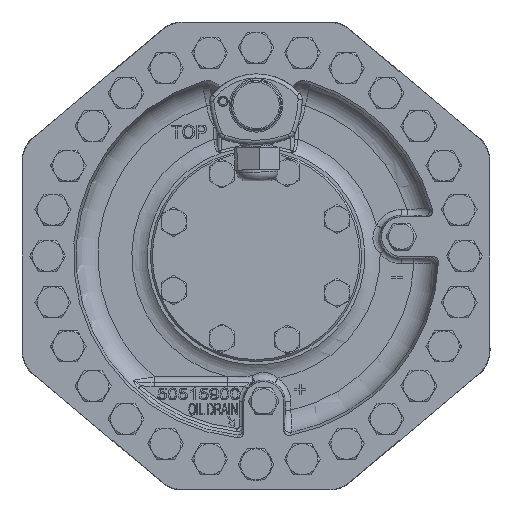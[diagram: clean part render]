
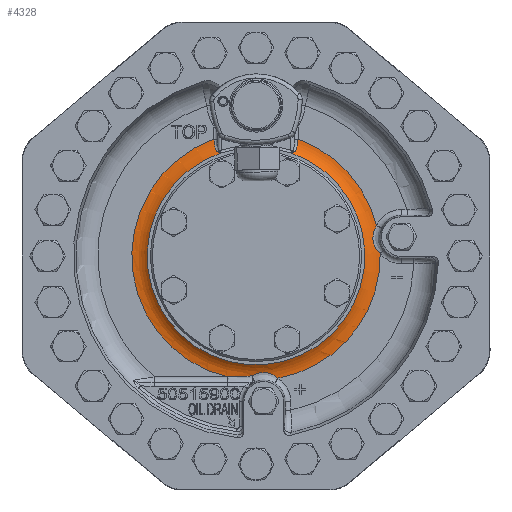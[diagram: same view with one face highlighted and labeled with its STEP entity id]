
A CAD part, front view. The second image highlights one B-rep face of the part: STEP entity #4328.
In plain terms, the highlighted toroidal (fillet/blend) face has major radius 64.087 mm and minor radius 12 mm.
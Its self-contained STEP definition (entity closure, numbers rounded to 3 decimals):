
#2057=TOROIDAL_SURFACE('',#20884,64.087,12.);
#2098=FACE_OUTER_BOUND('',#7110,.T.);
#3182=B_SPLINE_CURVE_WITH_KNOTS('',3,(#27173,#27174,#27175,#27176),
 .UNSPECIFIED.,.F.,.F.,(4,4),(0.,1.),.UNSPECIFIED.);
#3183=B_SPLINE_CURVE_WITH_KNOTS('',3,(#27178,#27179,#27180,#27181,#27182,
#27183,#27184,#27185),.UNSPECIFIED.,.F.,.F.,(4,2,2,4),(0.,0.25,0.5,1.),
 .UNSPECIFIED.);
#3184=B_SPLINE_CURVE_WITH_KNOTS('',3,(#27189,#27190,#27191,#27192,#27193,
#27194,#27195),.UNSPECIFIED.,.F.,.F.,(4,3,4),(0.,0.645,1.),
 .UNSPECIFIED.);
#3185=B_SPLINE_CURVE_WITH_KNOTS('',3,(#27197,#27198,#27199,#27200,#27201,
#27202,#27203,#27204),.UNSPECIFIED.,.F.,.F.,(4,2,2,4),(0.,0.25,0.5,1.),
 .UNSPECIFIED.);
#3186=B_SPLINE_CURVE_WITH_KNOTS('',3,(#27208,#27209,#27210,#27211,#27212,
#27213,#27214,#27215,#27216,#27217),.UNSPECIFIED.,.F.,.F.,(4,2,2,2,4),(0.,
0.25,0.5,0.75,1.),.UNSPECIFIED.);
#3187=B_SPLINE_CURVE_WITH_KNOTS('',3,(#27221,#27222,#27223,#27224,#27225,
#27226,#27227,#27228),.UNSPECIFIED.,.F.,.F.,(4,2,2,4),(0.,0.5,
0.75,1.),.UNSPECIFIED.);
#3188=B_SPLINE_CURVE_WITH_KNOTS('',3,(#27230,#27231,#27232,#27233),
 .UNSPECIFIED.,.F.,.F.,(4,4),(0.,1.),.UNSPECIFIED.);
#4328=ADVANCED_FACE('',(#2098),#2057,.F.);
#6085=CIRCLE('',#20876,56.15);
#6089=CIRCLE('',#20881,64.087);
#6090=CIRCLE('',#20882,64.087);
#6091=CIRCLE('',#20883,64.087);
#7110=EDGE_LOOP('',(#10576,#10577,#10578,#10579,#10580,#10581,#10582,#10583,
#10584,#10585,#10586));
#10576=ORIENTED_EDGE('',*,*,#18043,.F.);
#10577=ORIENTED_EDGE('',*,*,#18047,.T.);
#10578=ORIENTED_EDGE('',*,*,#18048,.T.);
#10579=ORIENTED_EDGE('',*,*,#18049,.F.);
#10580=ORIENTED_EDGE('',*,*,#18050,.T.);
#10581=ORIENTED_EDGE('',*,*,#18051,.T.);
#10582=ORIENTED_EDGE('',*,*,#18052,.F.);
#10583=ORIENTED_EDGE('',*,*,#18053,.T.);
#10584=ORIENTED_EDGE('',*,*,#18054,.F.);
#10585=ORIENTED_EDGE('',*,*,#18055,.T.);
#10586=ORIENTED_EDGE('',*,*,#18056,.T.);
#16234=VERTEX_POINT('',#27165);
#16235=VERTEX_POINT('',#27166);
#16238=VERTEX_POINT('',#27177);
#16239=VERTEX_POINT('',#27186);
#16240=VERTEX_POINT('',#27188);
#16241=VERTEX_POINT('',#27196);
#16242=VERTEX_POINT('',#27205);
#16243=VERTEX_POINT('',#27207);
#16244=VERTEX_POINT('',#27218);
#16245=VERTEX_POINT('',#27220);
#16246=VERTEX_POINT('',#27229);
#18043=EDGE_CURVE('',#16234,#16235,#6085,.T.);
#18047=EDGE_CURVE('',#16234,#16238,#3182,.T.);
#18048=EDGE_CURVE('',#16238,#16239,#3183,.T.);
#18049=EDGE_CURVE('',#16240,#16239,#6089,.T.);
#18050=EDGE_CURVE('',#16240,#16241,#3184,.T.);
#18051=EDGE_CURVE('',#16241,#16242,#3185,.T.);
#18052=EDGE_CURVE('',#16243,#16242,#6090,.T.);
#18053=EDGE_CURVE('',#16243,#16244,#3186,.T.);
#18054=EDGE_CURVE('',#16245,#16244,#6091,.T.);
#18055=EDGE_CURVE('',#16245,#16246,#3187,.T.);
#18056=EDGE_CURVE('',#16246,#16235,#3188,.T.);
#20876=AXIS2_PLACEMENT_3D('',#27164,#22635,#22636);
#20881=AXIS2_PLACEMENT_3D('',#27187,#22645,#22646);
#20882=AXIS2_PLACEMENT_3D('',#27206,#22647,#22648);
#20883=AXIS2_PLACEMENT_3D('',#27219,#22649,#22650);
#20884=AXIS2_PLACEMENT_3D('',#27234,#22651,#22652);
#22635=DIRECTION('',(-1.,0.,0.));
#22636=DIRECTION('',(0.,0.,-1.));
#22645=DIRECTION('',(1.,0.,0.));
#22646=DIRECTION('',(0.,0.,1.));
#22647=DIRECTION('',(1.,0.,0.));
#22648=DIRECTION('',(0.,0.,1.));
#22649=DIRECTION('',(1.,0.,0.));
#22650=DIRECTION('',(0.,0.,1.));
#22651=DIRECTION('',(-1.,0.,0.));
#22652=DIRECTION('',(0.,0.,1.));
#27164=CARTESIAN_POINT('',(-13.,0.,0.));
#27165=CARTESIAN_POINT('',(-13.,18.434,53.038));
#27166=CARTESIAN_POINT('',(-13.,-18.434,53.038));
#27173=CARTESIAN_POINT('',(-13.,18.434,53.038));
#27174=CARTESIAN_POINT('',(-12.841,18.812,53.098));
#27175=CARTESIAN_POINT('',(-12.605,19.216,53.25));
#27176=CARTESIAN_POINT('',(-12.365,19.578,53.462));
#27177=CARTESIAN_POINT('',(-12.365,19.578,53.462));
#27178=CARTESIAN_POINT('',(-12.365,19.578,53.462));
#27179=CARTESIAN_POINT('',(-12.034,20.078,53.753));
#27180=CARTESIAN_POINT('',(-11.676,20.417,54.218));
#27181=CARTESIAN_POINT('',(-11.067,20.931,55.266));
#27182=CARTESIAN_POINT('',(-10.809,21.105,55.852));
#27183=CARTESIAN_POINT('',(-10.197,21.512,57.679));
#27184=CARTESIAN_POINT('',(-10.,21.637,58.982));
#27185=CARTESIAN_POINT('',(-10.,21.708,60.299));
#27186=CARTESIAN_POINT('',(-10.,21.708,60.299));
#27187=CARTESIAN_POINT('',(-10.,0.,0.));
#27188=CARTESIAN_POINT('',(-10.,14.604,-62.401));
#27189=CARTESIAN_POINT('',(-10.,14.604,-62.401));
#27190=CARTESIAN_POINT('',(-10.,11.904,-62.205));
#27191=CARTESIAN_POINT('',(-10.077,9.2,-62.058));
#27192=CARTESIAN_POINT('',(-10.133,6.495,-61.967));
#27193=CARTESIAN_POINT('',(-10.164,5.005,-61.917));
#27194=CARTESIAN_POINT('',(-10.189,3.514,-61.884));
#27195=CARTESIAN_POINT('',(-10.201,2.024,-61.868));
#27196=CARTESIAN_POINT('',(-10.201,2.024,-61.868));
#27197=CARTESIAN_POINT('',(-10.201,2.024,-61.868));
#27198=CARTESIAN_POINT('',(-10.325,1.025,-61.228));
#27199=CARTESIAN_POINT('',(-10.482,-0.086,-60.72));
#27200=CARTESIAN_POINT('',(-10.657,-2.403,-60.124));
#27201=CARTESIAN_POINT('',(-10.667,-3.651,-60.034));
#27202=CARTESIAN_POINT('',(-10.445,-7.215,-60.431));
#27203=CARTESIAN_POINT('',(-10.,-9.432,-61.534));
#27204=CARTESIAN_POINT('',(-10.,-11.298,-63.083));
#27205=CARTESIAN_POINT('',(-10.,-11.298,-63.083));
#27206=CARTESIAN_POINT('',(-10.,0.,0.));
#27207=CARTESIAN_POINT('',(-10.,-64.074,1.288));
#27208=CARTESIAN_POINT('',(-10.,-64.074,1.288));
#27209=CARTESIAN_POINT('',(-10.,-63.113,2.194));
#27210=CARTESIAN_POINT('',(-10.113,-62.279,3.222));
#27211=CARTESIAN_POINT('',(-10.329,-61.005,5.496));
#27212=CARTESIAN_POINT('',(-10.424,-60.562,6.777));
#27213=CARTESIAN_POINT('',(-10.423,-60.222,9.351));
#27214=CARTESIAN_POINT('',(-10.328,-60.316,10.695));
#27215=CARTESIAN_POINT('',(-10.112,-60.952,13.22));
#27216=CARTESIAN_POINT('',(-10.,-61.483,14.42));
#27217=CARTESIAN_POINT('',(-10.,-62.173,15.545));
#27218=CARTESIAN_POINT('',(-10.,-62.173,15.545));
#27219=CARTESIAN_POINT('',(-10.,0.,0.));
#27220=CARTESIAN_POINT('',(-10.,-21.708,60.299));
#27221=CARTESIAN_POINT('',(-10.,-21.708,60.299));
#27222=CARTESIAN_POINT('',(-10.,-21.637,58.981));
#27223=CARTESIAN_POINT('',(-10.192,-21.515,57.699));
#27224=CARTESIAN_POINT('',(-10.807,-21.107,55.857));
#27225=CARTESIAN_POINT('',(-11.067,-20.931,55.267));
#27226=CARTESIAN_POINT('',(-11.675,-20.419,54.22));
#27227=CARTESIAN_POINT('',(-12.034,-20.078,53.754));
#27228=CARTESIAN_POINT('',(-12.365,-19.578,53.462));
#27229=CARTESIAN_POINT('',(-12.365,-19.578,53.462));
#27230=CARTESIAN_POINT('',(-12.365,-19.578,53.462));
#27231=CARTESIAN_POINT('',(-12.605,-19.216,53.25));
#27232=CARTESIAN_POINT('',(-12.841,-18.812,53.098));
#27233=CARTESIAN_POINT('',(-13.,-18.434,53.038));
#27234=CARTESIAN_POINT('',(-22.,0.,0.));
